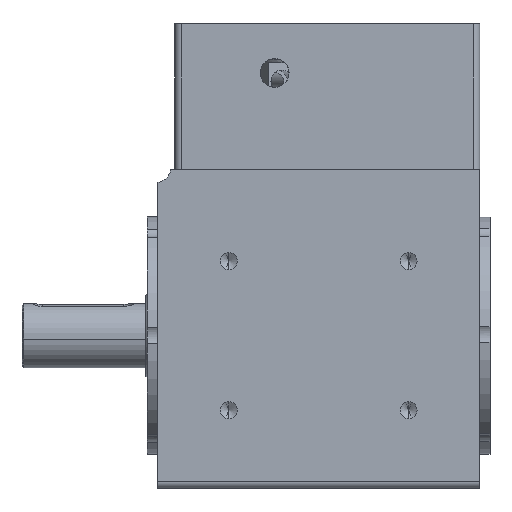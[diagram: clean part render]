
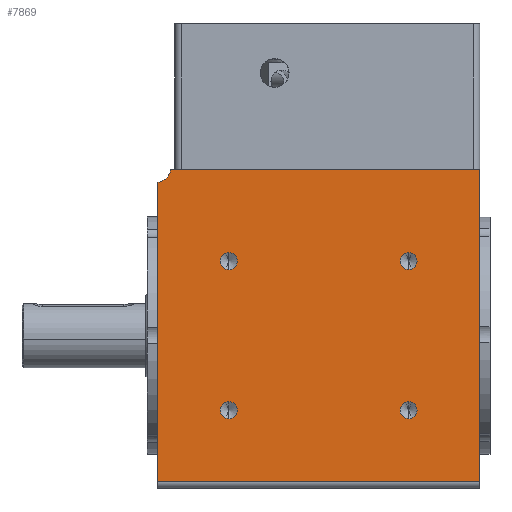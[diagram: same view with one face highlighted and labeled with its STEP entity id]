
A CAD part, front view. The second image highlights one B-rep face of the part: STEP entity #7869.
In plain terms, the highlighted planar face has unit normal (0, -1, 0).
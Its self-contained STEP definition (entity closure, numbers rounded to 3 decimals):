
#629 = DIRECTION ( 'NONE',  ( 0., 0., -1. ) ) ;
#1339 = EDGE_LOOP ( 'NONE', ( #2989, #3127 ) ) ;
#1869 = EDGE_CURVE ( 'NONE', #12412, #10156, #25372, .T. ) ;
#2156 = DIRECTION ( 'NONE',  ( 0., 0., -1. ) ) ;
#2237 = CARTESIAN_POINT ( 'NONE',  ( -37.743, -60.486, 94. ) ) ;
#2907 = CARTESIAN_POINT ( 'NONE',  ( -16.743, -60.486, 23. ) ) ;
#2989 = ORIENTED_EDGE ( 'NONE', *, *, #17593, .F. ) ;
#3127 = ORIENTED_EDGE ( 'NONE', *, *, #9746, .F. ) ;
#3352 = CARTESIAN_POINT ( 'NONE',  ( 57.257, -60.486, 2. ) ) ;
#3422 = CARTESIAN_POINT ( 'NONE',  ( -38.743, -60.486, 95. ) ) ;
#3575 = LINE ( 'NONE', #8212, #29817 ) ;
#3596 = DIRECTION ( 'NONE',  ( 0., -1., 0. ) ) ;
#3767 = CARTESIAN_POINT ( 'NONE',  ( -37.743, -60.486, 2. ) ) ;
#3818 = AXIS2_PLACEMENT_3D ( 'NONE', #2907, #20685, #5457 ) ;
#4536 = EDGE_LOOP ( 'NONE', ( #26718, #13597 ) ) ;
#4535 = CARTESIAN_POINT ( 'NONE',  ( 36.257, -60.486, 23. ) ) ;
#4566 = LINE ( 'NONE', #12279, #24032 ) ;
#4614 = CARTESIAN_POINT ( 'NONE',  ( 36.257, -60.486, 25.5 ) ) ;
#5018 = CIRCLE ( 'NONE', #8577, 5. ) ;
#5309 = VERTEX_POINT ( 'NONE', #29885 ) ;
#5452 = CIRCLE ( 'NONE', #12863, 2.5 ) ;
#5457 = DIRECTION ( 'NONE',  ( 0., 0., -1. ) ) ;
#5529 = CARTESIAN_POINT ( 'NONE',  ( 57.257, -60.486, 94. ) ) ;
#5549 = EDGE_CURVE ( 'NONE', #26913, #20733, #3575, .T. ) ;
#5957 = DIRECTION ( 'NONE',  ( 0., 0., -1. ) ) ;
#6543 = ORIENTED_EDGE ( 'NONE', *, *, #27382, .F. ) ;
#6594 = VERTEX_POINT ( 'NONE', #17797 ) ;
#6702 = CIRCLE ( 'NONE', #29138, 2.5 ) ;
#6919 = ORIENTED_EDGE ( 'NONE', *, *, #29834, .F. ) ;
#7102 = DIRECTION ( 'NONE',  ( 0., 0., -1. ) ) ;
#7178 = CARTESIAN_POINT ( 'NONE',  ( -33.844, -60.486, 94. ) ) ;
#7869 = ADVANCED_FACE ( 'NONE', ( #22206, #16203, #8647, #21379, #28922 ), #26417, .F. ) ;
#8212 = CARTESIAN_POINT ( 'NONE',  ( 57.257, -60.486, 2. ) ) ;
#8423 = DIRECTION ( 'NONE',  ( 0., -1., 0. ) ) ;
#8577 = AXIS2_PLACEMENT_3D ( 'NONE', #3422, #21201, #5957 ) ;
#8636 = ORIENTED_EDGE ( 'NONE', *, *, #19963, .F. ) ;
#8647 = FACE_BOUND ( 'NONE', #4536, .T. ) ;
#9746 = EDGE_CURVE ( 'NONE', #21366, #24976, #5452, .T. ) ;
#9807 = VERTEX_POINT ( 'NONE', #4614 ) ;
#9819 = ORIENTED_EDGE ( 'NONE', *, *, #5549, .T. ) ;
#10156 = VERTEX_POINT ( 'NONE', #13907 ) ;
#10433 = CIRCLE ( 'NONE', #16613, 2.5 ) ;
#10675 = CIRCLE ( 'NONE', #28081, 2.5 ) ;
#11086 = VECTOR ( 'NONE', #17458, 1000. ) ;
#11582 = DIRECTION ( 'NONE',  ( 0., 0., -1. ) ) ;
#11935 = CARTESIAN_POINT ( 'NONE',  ( 36.257, -60.486, 67. ) ) ;
#12279 = CARTESIAN_POINT ( 'NONE',  ( 57.257, -60.486, 94. ) ) ;
#12412 = VERTEX_POINT ( 'NONE', #18564 ) ;
#12455 = EDGE_LOOP ( 'NONE', ( #32012, #9819, #16832, #28917, #6919 ) ) ;
#12699 = CARTESIAN_POINT ( 'NONE',  ( 36.257, -60.486, 20.5 ) ) ;
#12863 = AXIS2_PLACEMENT_3D ( 'NONE', #11935, #29721, #14503 ) ;
#13195 = CARTESIAN_POINT ( 'NONE',  ( -16.743, -60.486, 67. ) ) ;
#13597 = ORIENTED_EDGE ( 'NONE', *, *, #1869, .F. ) ;
#13744 = CARTESIAN_POINT ( 'NONE',  ( -37.743, -60.486, 94. ) ) ;
#13907 = CARTESIAN_POINT ( 'NONE',  ( -16.743, -60.486, 20.5 ) ) ;
#14503 = DIRECTION ( 'NONE',  ( 0., 0., -1. ) ) ;
#14541 = CARTESIAN_POINT ( 'NONE',  ( 36.257, -60.486, 69.5 ) ) ;
#14642 = VERTEX_POINT ( 'NONE', #7178 ) ;
#14721 = CIRCLE ( 'NONE', #19900, 2.5 ) ;
#15736 = DIRECTION ( 'NONE',  ( 0., 0., -1. ) ) ;
#15828 = DIRECTION ( 'NONE',  ( 0., -1., 0. ) ) ;
#16023 = VERTEX_POINT ( 'NONE', #5529 ) ;
#16190 = EDGE_LOOP ( 'NONE', ( #6543, #8636 ) ) ;
#16203 = FACE_BOUND ( 'NONE', #1339, .T. ) ;
#16284 = DIRECTION ( 'NONE',  ( 0., 0., 1. ) ) ;
#16613 = AXIS2_PLACEMENT_3D ( 'NONE', #32589, #17377, #2156 ) ;
#16657 = EDGE_CURVE ( 'NONE', #26558, #26913, #17929, .T. ) ;
#16832 = ORIENTED_EDGE ( 'NONE', *, *, #20333, .F. ) ;
#17145 = VECTOR ( 'NONE', #11582, 1000. ) ;
#17377 = DIRECTION ( 'NONE',  ( 0., -1., 0. ) ) ;
#17458 = DIRECTION ( 'NONE',  ( 1., 0., 0. ) ) ;
#17593 = EDGE_CURVE ( 'NONE', #24976, #21366, #14721, .T. ) ;
#17797 = CARTESIAN_POINT ( 'NONE',  ( -16.743, -60.486, 64.5 ) ) ;
#17929 = LINE ( 'NONE', #24264, #17145 ) ;
#18564 = CARTESIAN_POINT ( 'NONE',  ( -16.743, -60.486, 25.5 ) ) ;
#18822 = CARTESIAN_POINT ( 'NONE',  ( -16.743, -60.486, 23. ) ) ;
#19791 = CARTESIAN_POINT ( 'NONE',  ( -37.743, -60.486, 90.101 ) ) ;
#19822 = EDGE_LOOP ( 'NONE', ( #21779, #22377 ) ) ;
#19900 = AXIS2_PLACEMENT_3D ( 'NONE', #23654, #8423, #26209 ) ;
#19963 = EDGE_CURVE ( 'NONE', #5309, #6594, #25259, .T. ) ;
#20333 = EDGE_CURVE ( 'NONE', #16023, #20733, #4566, .T. ) ;
#20607 = EDGE_CURVE ( 'NONE', #10156, #12412, #32765, .T. ) ;
#20685 = DIRECTION ( 'NONE',  ( 0., -1., 0. ) ) ;
#20733 = VERTEX_POINT ( 'NONE', #3352 ) ;
#21201 = DIRECTION ( 'NONE',  ( 0., -1., 0. ) ) ;
#21366 = VERTEX_POINT ( 'NONE', #14541 ) ;
#21379 = FACE_BOUND ( 'NONE', #19822, .T. ) ;
#21390 = DIRECTION ( 'NONE',  ( 0., 0., -1. ) ) ;
#21779 = ORIENTED_EDGE ( 'NONE', *, *, #21950, .F. ) ;
#21950 = EDGE_CURVE ( 'NONE', #22055, #9807, #10433, .T. ) ;
#22055 = VERTEX_POINT ( 'NONE', #12699 ) ;
#22206 = FACE_BOUND ( 'NONE', #16190, .T. ) ;
#22333 = DIRECTION ( 'NONE',  ( 0., -1., 0. ) ) ;
#22377 = ORIENTED_EDGE ( 'NONE', *, *, #27087, .F. ) ;
#23654 = CARTESIAN_POINT ( 'NONE',  ( 36.257, -60.486, 67. ) ) ;
#24010 = CARTESIAN_POINT ( 'NONE',  ( 36.257, -60.486, 64.5 ) ) ;
#24032 = VECTOR ( 'NONE', #27615, 1000. ) ;
#24264 = CARTESIAN_POINT ( 'NONE',  ( -37.743, -60.486, 94. ) ) ;
#24634 = LINE ( 'NONE', #2237, #11086 ) ;
#24976 = VERTEX_POINT ( 'NONE', #24010 ) ;
#25259 = CIRCLE ( 'NONE', #32945, 2.5 ) ;
#25372 = CIRCLE ( 'NONE', #31624, 2.5 ) ;
#26209 = DIRECTION ( 'NONE',  ( 0., 0., -1. ) ) ;
#26417 = PLANE ( 'NONE',  #27935 ) ;
#26558 = VERTEX_POINT ( 'NONE', #19791 ) ;
#26588 = EDGE_CURVE ( 'NONE', #14642, #16023, #24634, .T. ) ;
#26718 = ORIENTED_EDGE ( 'NONE', *, *, #20607, .F. ) ;
#26913 = VERTEX_POINT ( 'NONE', #3767 ) ;
#27087 = EDGE_CURVE ( 'NONE', #9807, #22055, #10675, .T. ) ;
#27382 = EDGE_CURVE ( 'NONE', #6594, #5309, #6702, .T. ) ;
#27615 = DIRECTION ( 'NONE',  ( 0., 0., -1. ) ) ;
#27935 = AXIS2_PLACEMENT_3D ( 'NONE', #13744, #31507, #16284 ) ;
#28081 = AXIS2_PLACEMENT_3D ( 'NONE', #4535, #22333, #7102 ) ;
#28637 = DIRECTION ( 'NONE',  ( 1., 0., 0. ) ) ;
#28917 = ORIENTED_EDGE ( 'NONE', *, *, #26588, .F. ) ;
#28922 = FACE_OUTER_BOUND ( 'NONE', #12455, .T. ) ;
#29138 = AXIS2_PLACEMENT_3D ( 'NONE', #31061, #15828, #629 ) ;
#29721 = DIRECTION ( 'NONE',  ( 0., -1., 0. ) ) ;
#29817 = VECTOR ( 'NONE', #28637, 1000. ) ;
#29834 = EDGE_CURVE ( 'NONE', #26558, #14642, #5018, .T. ) ;
#29885 = CARTESIAN_POINT ( 'NONE',  ( -16.743, -60.486, 69.5 ) ) ;
#30961 = DIRECTION ( 'NONE',  ( 0., -1., 0. ) ) ;
#31061 = CARTESIAN_POINT ( 'NONE',  ( -16.743, -60.486, 67. ) ) ;
#31507 = DIRECTION ( 'NONE',  ( 0., 1., 0. ) ) ;
#31624 = AXIS2_PLACEMENT_3D ( 'NONE', #18822, #3596, #21390 ) ;
#32012 = ORIENTED_EDGE ( 'NONE', *, *, #16657, .T. ) ;
#32589 = CARTESIAN_POINT ( 'NONE',  ( 36.257, -60.486, 23. ) ) ;
#32765 = CIRCLE ( 'NONE', #3818, 2.5 ) ;
#32945 = AXIS2_PLACEMENT_3D ( 'NONE', #13195, #30961, #15736 ) ;
